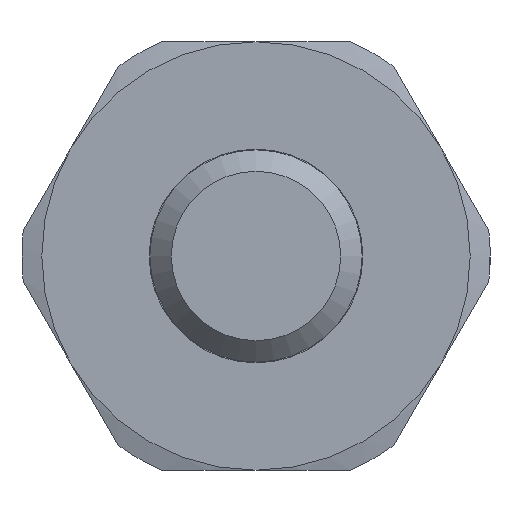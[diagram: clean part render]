
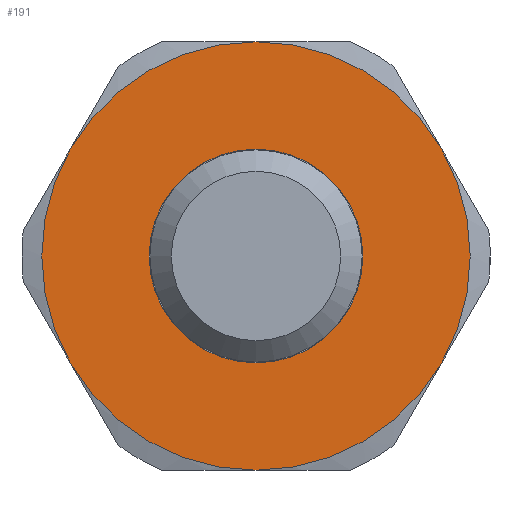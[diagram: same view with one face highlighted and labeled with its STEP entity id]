
A CAD part, left-side view. The second image highlights one B-rep face of the part: STEP entity #191.
In plain terms, the highlighted free-form (B-spline) face has degree [1, 1] with [2, 2] control points.
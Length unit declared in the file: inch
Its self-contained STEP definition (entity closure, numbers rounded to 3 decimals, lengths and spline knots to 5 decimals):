
#119=CARTESIAN_POINT('',(-0.219,0.5,0.5));
#120=CARTESIAN_POINT('',(-0.219,-0.5,0.5));
#121=CARTESIAN_POINT('',(-0.219,0.5,-0.5));
#122=CARTESIAN_POINT('',(-0.219,-0.5,-0.5));
#123=B_SPLINE_SURFACE_WITH_KNOTS('',1,1,((#119,#121),(#120,#122)),.UNSPECIFIED.,.F.,.F.,.U.,(2,2),(2,2),(0.0,1.),(0.0,1.),.UNSPECIFIED.);
#124=CARTESIAN_POINT('',(-0.219,-0.43301,-0.25));
#125=VERTEX_POINT('',#124);
#126=CARTESIAN_POINT('',(-0.219,0.0,-0.5));
#127=VERTEX_POINT('',#126);
#128=CARTESIAN_POINT('',(-0.219,0.0,0.0));
#129=DIRECTION('',(1.0,0.0,0.0));
#130=DIRECTION('',(0.0,-1.0,0.0));
#131=AXIS2_PLACEMENT_3D('',#128,#129,#130);
#132=CIRCLE('',#131,0.5);
#133=EDGE_CURVE('',#125,#127,#132,.T.);
#134=ORIENTED_EDGE('',*,*,#133,.F.);
#135=CARTESIAN_POINT('',(-0.219,-0.43301,0.25));
#136=VERTEX_POINT('',#135);
#137=CARTESIAN_POINT('',(-0.219,0.0,0.0));
#138=DIRECTION('',(1.0,0.0,0.0));
#139=DIRECTION('',(0.0,-1.0,0.0));
#140=AXIS2_PLACEMENT_3D('',#137,#138,#139);
#141=CIRCLE('',#140,0.5);
#142=EDGE_CURVE('',#136,#125,#141,.T.);
#143=ORIENTED_EDGE('',*,*,#142,.F.);
#144=CARTESIAN_POINT('',(-0.219,0.0,0.5));
#145=VERTEX_POINT('',#144);
#146=CARTESIAN_POINT('',(-0.219,0.0,0.0));
#147=DIRECTION('',(1.0,0.0,0.0));
#148=DIRECTION('',(0.0,-1.0,0.0));
#149=AXIS2_PLACEMENT_3D('',#146,#147,#148);
#150=CIRCLE('',#149,0.5);
#151=EDGE_CURVE('',#145,#136,#150,.T.);
#152=ORIENTED_EDGE('',*,*,#151,.F.);
#153=CARTESIAN_POINT('',(-0.219,0.43301,0.25));
#154=VERTEX_POINT('',#153);
#155=CARTESIAN_POINT('',(-0.219,0.0,0.0));
#156=DIRECTION('',(1.0,0.0,0.0));
#157=DIRECTION('',(0.0,-1.0,0.0));
#158=AXIS2_PLACEMENT_3D('',#155,#156,#157);
#159=CIRCLE('',#158,0.5);
#160=EDGE_CURVE('',#154,#145,#159,.T.);
#161=ORIENTED_EDGE('',*,*,#160,.F.);
#162=CARTESIAN_POINT('',(-0.219,0.43301,-0.25));
#163=VERTEX_POINT('',#162);
#164=CARTESIAN_POINT('',(-0.219,0.0,0.0));
#165=DIRECTION('',(1.0,0.0,0.0));
#166=DIRECTION('',(0.0,-1.0,0.0));
#167=AXIS2_PLACEMENT_3D('',#164,#165,#166);
#168=CIRCLE('',#167,0.5);
#169=EDGE_CURVE('',#163,#154,#168,.T.);
#170=ORIENTED_EDGE('',*,*,#169,.F.);
#171=CARTESIAN_POINT('',(-0.219,0.0,0.0));
#172=DIRECTION('',(1.0,0.0,0.0));
#173=DIRECTION('',(0.0,-1.0,0.0));
#174=AXIS2_PLACEMENT_3D('',#171,#172,#173);
#175=CIRCLE('',#174,0.5);
#176=EDGE_CURVE('',#127,#163,#175,.T.);
#177=ORIENTED_EDGE('',*,*,#176,.F.);
#178=EDGE_LOOP('',(#134,#143,#152,#161,#170,#177));
#179=FACE_OUTER_BOUND('',#178,.T.);
#180=CARTESIAN_POINT('',(-0.219,-0.2495,0.0));
#181=VERTEX_POINT('',#180);
#182=CARTESIAN_POINT('',(-0.219,0.0,0.0));
#183=DIRECTION('',(-1.0,0.0,0.0));
#184=DIRECTION('',(0.0,-1.0,0.0));
#185=AXIS2_PLACEMENT_3D('',#182,#183,#184);
#186=CIRCLE('',#185,0.2495);
#187=EDGE_CURVE('',#181,#181,#186,.T.);
#188=ORIENTED_EDGE('',*,*,#187,.F.);
#189=EDGE_LOOP('',(#188));
#190=FACE_BOUND('',#189,.T.);
#191=ADVANCED_FACE('',(#179,#190),#123,.F.);
